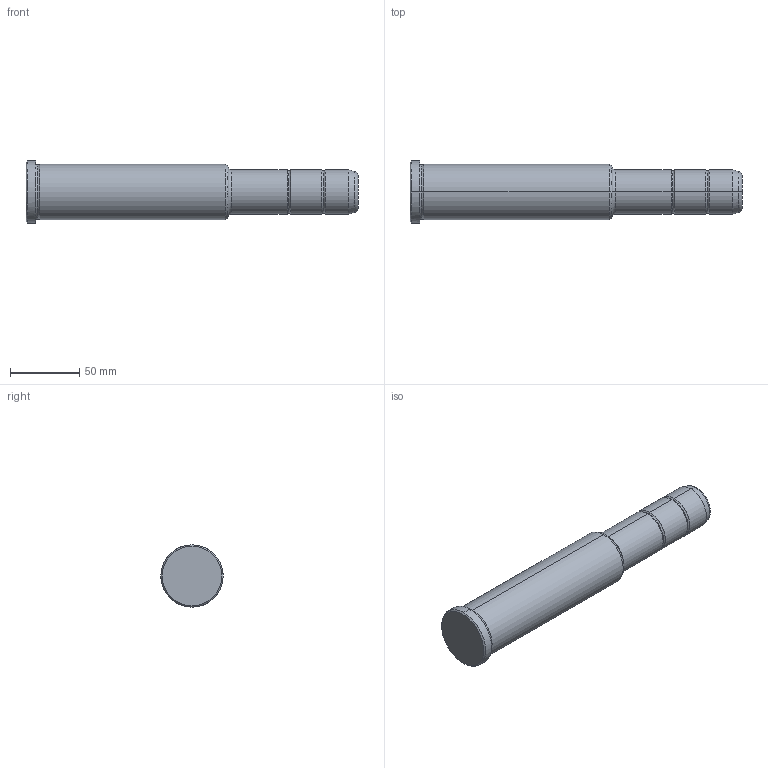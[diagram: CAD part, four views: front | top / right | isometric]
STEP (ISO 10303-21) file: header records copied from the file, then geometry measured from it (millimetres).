
FILE_DESCRIPTION(('CATIA V5 STEP Exchange'),'2;1');
FILE_NAME('C:\Users\Utente\Desktop\IO LAVORO\3D X SITO CF\X SITO\PLASTICA\351\351-32X146X240.stp','2021-09-15T12:18:58+00:00',('none'),('none'),'CATIA Version 5 Release 20 GA (IN-10)','CATIA V5 STEP AP203','none');
FILE_SCHEMA(('CONFIG_CONTROL_DESIGN'));
Length unit declared in the file: millimetre
Products named in the file (1): 351-32X146X240
Bounding box: 240 x 45 x 45 mm (x, y, z)
Volume: 260199.6 mm3; surface area: 30658.3 mm2
Topology: 1 solids, 1 shells, 36 faces, 102 edges, 70 vertices
Faces by surface type: torus 16, cylinder 10, cone 6, plane 4
Entity records: 1292 total; most frequent: CARTESIAN_POINT 321, ORIENTED_EDGE 204, DIRECTION 166, AXIS2_PLACEMENT_3D 115, EDGE_CURVE 102, CIRCLE 78, VERTEX_POINT 70, EDGE_LOOP 38
